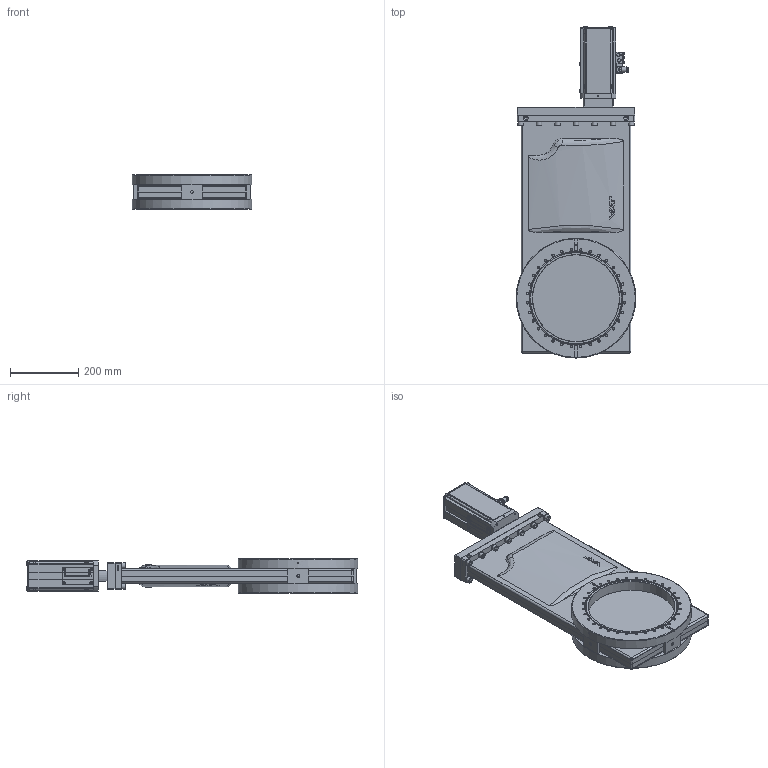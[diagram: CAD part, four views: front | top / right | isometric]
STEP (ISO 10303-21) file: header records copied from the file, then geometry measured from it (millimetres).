
FILE_DESCRIPTION(/* description */ (''),/* implementation_level */ '2;1');
FILE_NAME(/* name */ '1800628416_203.stp',/* time_stamp */ '2016-02-04T08:20:47+01:00',/* author */ (''),/* organization */ (''),/* preprocessor_version */ 'ST-DEVELOPER v15',/* originating_system */ 'SIEMENS PLM Software NX 9.0',/* authorisation */ '');
FILE_SCHEMA (('AP203_CONFIGURATION_CONTROLLED_3D_DESIGN_OF_MECHANICAL_PARTS_AND_ASSEMBLIES_MIM_LF { 1 0 10303 403 2 1 2}'));
Length unit declared in the file: millimetre
Products named in the file (37): 65664-01.2_25465ID; 209489_1.1; 436171_25422ID; 436171_25425ID; 467882; 437235; N-6024-538.1; 497026; N-6024-571.1; 85949-01.1; 72770-01.4; 215427.3_25068ID; 215427.3_25060ID; 77900.1; 74628-01.3; 89473-01.1; 82418-01.1; N-7557-016_1.1; N-7557-018.1; N-7557-016_2.1; N-6024-524.1; N-5018-005.1; 775041; 77876-01.1; 77858-01.1; 65313-01.1; N-5019-840.1; n-6134-410; 497027; 94225-01.1; 94238-R1.4; 210260.1; 206810.2; 90208-r1; N-7557-016_3.1_MODELNX-ARRAGMNTArrangement 1; 94800-r1.7_NX-ARRAGMNTKONFIG1; 776439
Assembly tree (79 placements, depth 4):
  776439
    94800-r1.7_NX-ARRAGMNTKONFIG1
      N-5018-005.1  x2
      N-6024-524.1  x6
      N-7557-016_2.1
      N-7557-018.1
      N-7557-016_1.1
      N-7557-016_3.1_MODELNX-ARRAGMNTArrangement 1
        437235
        467882
    90208-r1
      82418-01.1
      89473-01.1
      74628-01.3
    n-6134-410  x14
    N-5019-840.1  x14
    65313-01.1
    206810.2
      77900.1  x3
      210260.1
        436171_25425ID
        436171_25422ID
        209489_1.1
      215427.3_25060ID
      215427.3_25068ID
    77858-01.1
    77876-01.1
    94238-R1.4
      72770-01.4  x4
      85949-01.1
      N-6024-571.1  x4
      94225-01.1
        65664-01.2_25465ID
    775041
    497027
      497026
      N-6024-538.1  x4
Bounding box: 350 x 971.05 x 99.75 mm (x, y, z)
Volume: 7507626.9 mm3; surface area: 1789011 mm2
Topology: 99 solids, 99 shells, 2027 faces, 5112 edges, 3393 vertices
Faces by surface type: plane 1181, cylinder 544, cone 177, torus 43, extrusion 35, sphere 29, bspline 18
Full cylindrical faces by diameter (mm): 0.5 x1, 2.125 x1, 2.5 x2, 2.65 x1, 3 x10, 3.2 x2, 3.3 x4, 3.4 x4, 3.5 x3, 3.65 x2, 4 x6, 4.2 x4, 4.22 x1, 4.3 x3, 4.31 x4, 4.35 x2, 4.5 x2, 4.625 x2, 5 x11, 5.5 x1, 5.9 x1, 6 x19, 6.25 x2, 6.6 x4, 6.909 x64, 7 x1, 7.05 x1, 7.982 x4, 8 x4, 8.36 x14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
Entity records: 56320 total; most frequent: CARTESIAN_POINT 12576, DIRECTION 6484, ORIENTED_EDGE 6424, EDGE_CURVE 3212, AXIS2_PLACEMENT_3D 2461, VERTEX_POINT 2413, EDGE_LOOP 2084, VECTOR 1562
